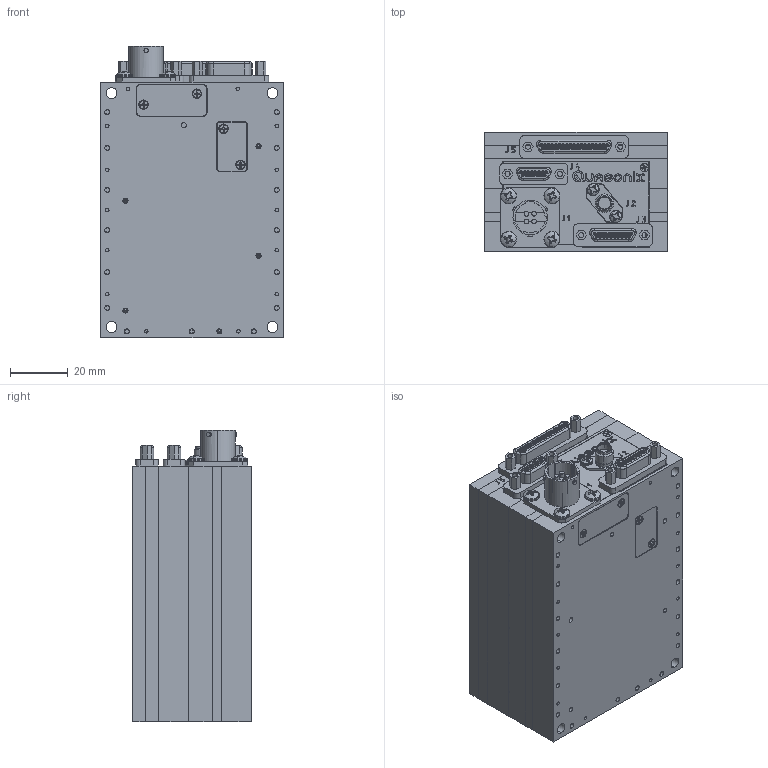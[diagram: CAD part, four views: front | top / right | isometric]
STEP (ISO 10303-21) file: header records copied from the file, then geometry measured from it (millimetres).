
FILE_DESCRIPTION (( 'STEP AP203' ), '1' );
FILE_NAME ('14AD_4-11-14.STEP', '2014-04-11T18:11:25', ( 'Quasonix' ), ( '' ), 'SwSTEP 2.0', 'SolidWorks 2014', '' );
FILE_SCHEMA (( 'CONFIG_CONTROL_DESIGN' ));
Length unit declared in the file: inch
Products named in the file (1): 14AD_4-11-14
Bounding box: 63.5 x 41.25 x 101.45 mm (x, y, z)
Surface area: 40114.3 mm2 (no closed solid volume)
Topology: 0 solids, 142 shells, 1509 faces, 5434 edges, 3997 vertices
Faces by surface type: plane 771, cylinder 403, cone 211, bspline 71, torus 41, sphere 12
Entity records: 61158 total; most frequent: CARTESIAN_POINT 15374, DIRECTION 9490, ORIENTED_EDGE 8600, EDGE_CURVE 5394, VERTEX_POINT 3997, AXIS2_PLACEMENT_3D 3481, LINE 2528, VECTOR 2528
